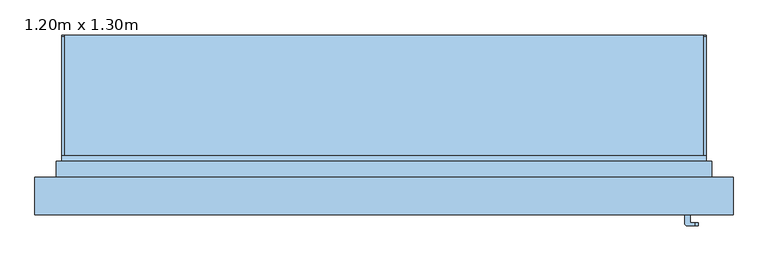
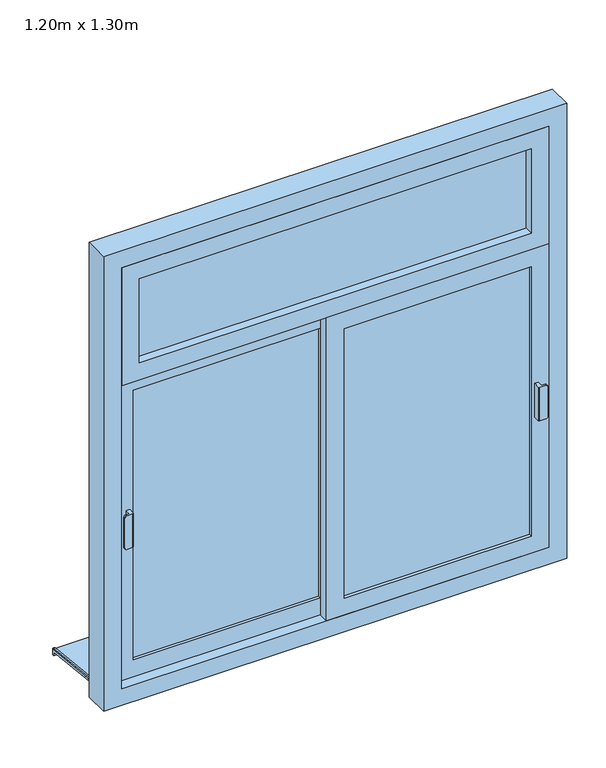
"""IFC4 building model written with IfcOpenShell, lengths in millimetres: window geometry, 2 Vantaux coul. - Imposte haute : 1.20m x 1.30m."""

from ifc_helpers import new_model, si_unit, point, frame, frame_2d, origin, place, context, project, spatial, polyline, circle_curve, trimmed, segment, composite_curve, outline, extrude, faceted_brep, source, transform, mapped, element, save
from ifc_brep_helpers import plane_surface, cylinder_surface, advanced_brep


def window_1_20m_x_1_30m_dc114463(model_context):
    return source(origin(), model_context, "Body", "SolidModel", [
        advanced_brep(
        [(-560.0, -147.5313182, 1250.0), (-562.4686818, -150.0, 1250.0), (-579.0477825, -150.0, 1250.0), (-579.0477825, -145.0, 1250.0), (-570.0, -145.0, 1250.0), (-570.0, -130.0, 1250.0), (-560.0, -130.0, 1250.0), (-560.0, -147.5313182, 1350.0), (-560.0, -130.0, 1350.0), (-570.0, -130.0, 1350.0), (-570.0, -145.0, 1350.0), (-579.0477825, -145.0, 1350.0), (-579.0477825, -150.0, 1350.0), (-562.4686818, -150.0, 1350.0), (-585.0, -145.0, 1255.9522175), (-585.0, -145.0, 1344.0477825), (-585.0, -150.0, 1255.9522175), (-585.0, -150.0, 1344.0477825)],
        [
            (0, 1),
            (1, 2),
            (2, 3),
            (3, 4),
            (4, 5),
            (5, 6),
            (6, 0),
            (7, 8),
            (8, 9),
            (9, 10),
            (10, 11),
            (11, 12),
            (12, 13),
            (13, 7),
            (6, 8),
            (7, 0),
            (5, 9),
            (4, 10),
            (3, 14, circle_curve(frame((-579.0477825, -145.0, 1255.9522175), z_axis=(0.0, 1.0, 0.0), x_axis=(-1.0, 0.0, 0.0)), 5.9522175)),
            (14, 15),
            (15, 11, circle_curve(frame((-579.0477825, -145.0, 1344.0477825), z_axis=(0.0, 1.0, 0.0), x_axis=(-1.0, 0.0, 0.0)), 5.9522175)),
            (14, 16),
            (16, 17),
            (17, 15),
            (12, 17, circle_curve(frame((-579.0477825, -150.0, 1344.0477825), z_axis=(0.0, -1.0, 0.0), x_axis=(-1.0, 0.0, 0.0)), 5.9522175)),
            (16, 2, circle_curve(frame((-579.0477825, -150.0, 1255.9522175), z_axis=(0.0, -1.0, 0.0), x_axis=(-1.0, 0.0, 0.0)), 5.9522175)),
            (1, 13),
        ],
        [
            plane_surface(frame((-560.0, -130.0, 1250.0), z_axis=(0.0, 0.0, -1.0), x_axis=(0.0, 1.0, 0.0))),
            plane_surface(frame((-560.0, -130.0, 1350.0), z_axis=(0.0, 0.0, 1.0), x_axis=(0.0, -1.0, 0.0))),
            plane_surface(frame((-560.0, -147.5313182, 1250.0), z_axis=(1.0, 0.0, 0.0), x_axis=(0.0, 0.0, 1.0))),
            plane_surface(frame((-560.0, -130.0, 1250.0), z_axis=(0.0, 1.0, 0.0), x_axis=(0.0, 0.0, 1.0))),
            plane_surface(frame((-570.0, -130.0, 1250.0), z_axis=(-1.0, 0.0, 0.0), x_axis=(0.0, 0.0, 1.0))),
            plane_surface(frame((-570.0, -145.0, 1250.0), z_axis=(0.0, 1.0, 0.0), x_axis=(0.0, 0.0, 1.0))),
            plane_surface(frame((-585.0, -145.0, 1250.0), z_axis=(-1.0, 0.0, 0.0), x_axis=(0.0, 0.0, 1.0))),
            plane_surface(frame((-585.0, -150.0, 1250.0), z_axis=(0.0, -1.0, 0.0), x_axis=(0.0, 0.0, 1.0))),
            plane_surface(frame((-562.4686818, -150.0, 1250.0), z_axis=(0.7071067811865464, -0.7071067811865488, 0.0), x_axis=(0.0, 0.0, 1.0))),
            cylinder_surface(frame((-579.0477825, -145.0, 1344.0477825), z_axis=(0.0, 1.0, 0.0), x_axis=(-1.0, 0.0, 0.0)), 5.9522175),
            cylinder_surface(frame((-579.0477825, -145.0, 1255.9522175), z_axis=(0.0, 1.0, 0.0), x_axis=(-1.0, 0.0, 0.0)), 5.9522175),
        ],
        [
            (0, [[1, 2, 3, 4, 5, 6, 7]]),
            (1, [[8, 9, 10, 11, 12, 13, 14]]),
            (2, [[15, -8, 16, -7]]),
            (3, [[17, -9, -15, -6]]),
            (4, [[18, -10, -17, -5]]),
            (5, [[-4, 19, 20, 21, -11, -18]]),
            (6, [[22, 23, 24, -20]]),
            (7, [[-13, 25, -23, 26, -2, 27]]),
            (8, [[-16, -14, -27, -1]]),
            (9, [[-21, -24, -25, -12]]),
            (10, [[-26, -22, -19, -3]]),
        ],
    ),
        advanced_brep(
        [(560.0, -177.5313182, 1250.0), (560.0, -160.0, 1250.0), (570.0, -160.0, 1250.0), (570.0, -175.0, 1250.0), (579.0477825, -175.0, 1250.0), (579.0477825, -180.0, 1250.0), (562.4686818, -180.0, 1250.0), (560.0, -177.5313182, 1350.0), (562.4686818, -180.0, 1350.0), (579.0477825, -180.0, 1350.0), (579.0477825, -175.0, 1350.0), (570.0, -175.0, 1350.0), (570.0, -160.0, 1350.0), (560.0, -160.0, 1350.0), (585.0, -175.0, 1344.0477825), (585.0, -175.0, 1255.9522175), (585.0, -180.0, 1344.0477825), (585.0, -180.0, 1255.9522175)],
        [
            (0, 1),
            (1, 2),
            (2, 3),
            (3, 4),
            (4, 5),
            (5, 6),
            (6, 0),
            (7, 8),
            (8, 9),
            (9, 10),
            (10, 11),
            (11, 12),
            (12, 13),
            (13, 7),
            (0, 7),
            (13, 1),
            (12, 2),
            (11, 3),
            (10, 14, circle_curve(frame((579.0477825, -175.0, 1344.0477825), z_axis=(0.0, 1.0, 0.0), x_axis=(1.0, 0.0, 0.0)), 5.9522175)),
            (14, 15),
            (15, 4, circle_curve(frame((579.0477825, -175.0, 1255.9522175), z_axis=(0.0, 1.0, 0.0), x_axis=(1.0, 0.0, 0.0)), 5.9522175)),
            (14, 16),
            (16, 17),
            (17, 15),
            (8, 6),
            (5, 17, circle_curve(frame((579.0477825, -180.0, 1255.9522175), z_axis=(0.0, -1.0, 0.0), x_axis=(1.0, 0.0, 0.0)), 5.9522175)),
            (16, 9, circle_curve(frame((579.0477825, -180.0, 1344.0477825), z_axis=(0.0, -1.0, 0.0), x_axis=(1.0, 0.0, 0.0)), 5.9522175)),
        ],
        [
            plane_surface(frame((560.0, -160.0, 1250.0), z_axis=(0.0, 0.0, -1.0), x_axis=(0.0, 1.0, 0.0))),
            plane_surface(frame((560.0, -160.0, 1350.0), z_axis=(0.0, 0.0, 1.0), x_axis=(0.0, -1.0, 0.0))),
            plane_surface(frame((560.0, -177.5313182, 1250.0), z_axis=(-1.0, 0.0, 0.0), x_axis=(0.0, 0.0, 1.0))),
            plane_surface(frame((560.0, -160.0, 1250.0), z_axis=(0.0, 1.0, 0.0), x_axis=(0.0, 0.0, 1.0))),
            plane_surface(frame((570.0, -160.0, 1250.0), z_axis=(1.0, 0.0, 0.0), x_axis=(0.0, 0.0, 1.0))),
            plane_surface(frame((570.0, -175.0, 1250.0), z_axis=(0.0, 1.0, 0.0), x_axis=(0.0, 0.0, 1.0))),
            plane_surface(frame((585.0, -175.0, 1250.0), z_axis=(1.0, 0.0, 0.0), x_axis=(0.0, 0.0, 1.0))),
            plane_surface(frame((585.0, -180.0, 1250.0), z_axis=(0.0, -1.0, 0.0), x_axis=(0.0, 0.0, 1.0))),
            plane_surface(frame((562.4686818, -180.0, 1250.0), z_axis=(-0.7071067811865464, -0.7071067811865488, 0.0), x_axis=(0.0, 0.0, 1.0))),
            cylinder_surface(frame((579.0477825, -175.0, 1344.0477825), z_axis=(0.0, 1.0, 0.0), x_axis=(1.0, 0.0, 0.0)), 5.9522175),
            cylinder_surface(frame((579.0477825, -175.0, 1255.9522175), z_axis=(0.0, 1.0, 0.0), x_axis=(1.0, 0.0, 0.0)), 5.9522175),
        ],
        [
            (0, [[1, 2, 3, 4, 5, 6, 7]]),
            (1, [[8, 9, 10, 11, 12, 13, 14]]),
            (2, [[-1, 15, -14, 16]]),
            (3, [[-2, -16, -13, 17]]),
            (4, [[-3, -17, -12, 18]]),
            (5, [[-18, -11, 19, 20, 21, -4]]),
            (6, [[-20, 22, 23, 24]]),
            (7, [[25, -6, 26, -23, 27, -9]]),
            (8, [[-7, -25, -8, -15]]),
            (9, [[-10, -27, -22, -19]]),
            (10, [[-5, -21, -24, -26]]),
        ],
    ),
        extrude(outline(polyline([(175.0, 763.4536318), (175.0, 747.8979153), (170.0, 748.4234365), (170.0, 758.7239412), (-80.0, 785.0), (-80.0, 800.0), (-75.0, 800.0), (-75.0, 789.7296906), (175.0, 763.4536318)])), frame((-600.0, 0.0, 0.0), z_axis=(1.0, 0.0, 0.0), x_axis=(0.0, 1.0, 0.0)), (0.0, 0.0, 1.0), 1200.0),
        extrude(outline(composite_curve([segment(polyline([(175.0, 763.4536318), (-75.0, 789.7296906), (-75.0, 794.757232), (171.4181139, 768.8576446)]), True, "CONTINUOUS"), segment(trimmed(circle_curve(frame_2d((171.0, 764.879557)), 4.0), [point((171.4181139, 768.8576446))], [point((175.0, 764.879557))], False, "CARTESIAN"), True, "CONTINUOUS"), segment(polyline([(175.0, 764.879557), (175.0, 763.4536318)]), True, "CONTINUOUS")], self_intersect=False)), frame((-600.0, 0.0, 0.0), z_axis=(1.0, 0.0, 0.0), x_axis=(0.0, 1.0, 0.0)), (0.0, 0.0, 1.0), 5.0),
        extrude(outline(composite_curve([segment(polyline([(175.0, 763.4536318), (-75.0, 789.7296906), (-75.0, 794.757232), (171.4181139, 768.8576446)]), True, "CONTINUOUS"), segment(trimmed(circle_curve(frame_2d((171.0, 764.879557)), 4.0), [point((171.4181139, 768.8576446))], [point((175.0, 764.879557))], False, "CARTESIAN"), True, "CONTINUOUS"), segment(polyline([(175.0, 764.879557), (175.0, 763.4536318)]), True, "CONTINUOUS")], self_intersect=False)), frame((595.0, 0.0, 0.0), z_axis=(1.0, 0.0, 0.0), x_axis=(0.0, 1.0, 0.0)), (0.0, 0.0, 1.0), 5.0),
        extrude(outline(polyline([(-550.0, -109.0), (-25.0, -109.0), (-25.0, -121.0), (-550.0, -121.0), (-550.0, -109.0)])), frame((0.0, 0.0, 900.0), z_axis=(0.0, 0.0, 1.0), x_axis=(1.0, 0.0, 0.0)), (0.0, 0.0, 1.0), 800.0),
        extrude(outline(polyline([(850.0, 25.0), (1750.0, 25.0), (1750.0, -600.0), (850.0, -600.0), (850.0, 25.0)]), holes=[polyline([(900.0, -550.0), (1700.0, -550.0), (1700.0, -25.0), (900.0, -25.0), (900.0, -550.0)])]), frame((0.0, -130.0, 0.0), z_axis=(0.0, 1.0, 0.0), x_axis=(0.0, 0.0, 1.0)), (0.0, 0.0, 1.0), 30.0),
        extrude(outline(polyline([(25.0, -139.0), (550.0, -139.0), (550.0, -151.0), (25.0, -151.0), (25.0, -139.0)])), frame((0.0, 0.0, 900.0), z_axis=(0.0, 0.0, 1.0), x_axis=(1.0, 0.0, 0.0)), (0.0, 0.0, 1.0), 800.0),
        extrude(outline(polyline([(850.0, 600.0), (1750.0, 600.0), (1750.0, -25.0), (850.0, -25.0), (850.0, 600.0)]), holes=[polyline([(900.0, 25.0), (1700.0, 25.0), (1700.0, 550.0), (900.0, 550.0), (900.0, 25.0)])]), frame((0.0, -160.0, 0.0), z_axis=(0.0, 1.0, 0.0), x_axis=(0.0, 0.0, 1.0)), (0.0, 0.0, 1.0), 30.0),
        faceted_brep([(-650.0, -160.0, 800.0), (-650.0, -90.0, 800.0), (-600.0, -90.0, 800.0), (-600.0, -60.0, 800.0), (600.0, -60.0, 800.0), (600.0, -90.0, 800.0), (650.0, -90.0, 800.0), (650.0, -160.0, 800.0), (-650.0, -160.0, 2150.0), (-650.0, -90.0, 2150.0), (650.0, -90.0, 2150.0), (600.0, -90.0, 839.3761425), (-600.0, -90.0, 839.3761425), (-585.0, -90.0, 2085.0), (-585.0, -90.0, 865.0), (585.0, -90.0, 865.0), (585.0, -90.0, 2085.0), (-600.0, -50.0, 828.6581748), (-600.0, -50.0, 795.0), (-600.0, -60.0, 795.0), (600.0, -60.0, 795.0), (600.0, -50.0, 795.0), (600.0, -50.0, 828.6581748), (650.0, -160.0, 2150.0), (600.0, -160.0, 2100.0), (600.0, -160.0, 850.0), (-600.0, -160.0, 850.0), (-600.0, -160.0, 2100.0), (-585.0, -100.0, 2085.0), (-585.0, -100.0, 865.0), (585.0, -100.0, 865.0), (585.0, -100.0, 2085.0), (600.0, -100.0, 2100.0), (-600.0, -100.0, 2100.0), (-600.0, -100.0, 850.0), (600.0, -100.0, 850.0)], [[[0, 1, 2, 3, 4, 5, 6, 7]], [[1, 0, 8, 9]], [[1, 9, 10, 6, 5, 11, 12, 2], [13, 14, 15, 16]], [[12, 17, 18, 19, 3, 2]], [[3, 19, 20, 4]], [[4, 20, 21, 22, 11, 5]], [[6, 10, 23, 7]], [[0, 7, 23, 8], [24, 25, 26, 27]], [[13, 28, 29, 14]], [[29, 30, 15, 14]], [[31, 16, 15, 30]], [[17, 12, 11, 22]], [[32, 33, 34, 35], [28, 31, 30, 29]], [[34, 33, 27, 26]], [[26, 25, 35, 34]], [[24, 32, 35, 25]], [[18, 17, 22, 21]], [[19, 18, 21, 20]], [[13, 16, 31, 28]], [[33, 32, 24, 27]], [[10, 9, 8, 23]]]),
        extrude(outline(polyline([(800.0, -610.0), (800.0, -600.0), (2100.0, -600.0), (2100.0, 600.0), (800.0, 600.0), (800.0, 610.0), (2110.0, 610.0), (2110.0, -610.0), (800.0, -610.0)])), frame((0.0, -90.0, 0.0), z_axis=(0.0, 1.0, 0.0), x_axis=(0.0, 0.0, 1.0)), (0.0, 0.0, 1.0), 30.0),
        extrude(outline(polyline([(1750.0, -600.0), (1750.0, 600.0), (2100.0, 600.0), (2100.0, -600.0), (1750.0, -600.0)]), holes=[polyline([(2050.0, -550.0), (2050.0, 550.0), (1800.0, 550.0), (1800.0, -550.0), (2050.0, -550.0)])]), frame((0.0, -160.0, 0.0), z_axis=(0.0, 1.0, 0.0), x_axis=(0.0, 0.0, 1.0)), (0.0, 0.0, 1.0), 60.0),
        extrude(outline(polyline([(-550.0, -124.0), (550.0, -124.0), (550.0, -136.0), (-550.0, -136.0), (-550.0, -124.0)])), frame((0.0, 0.0, 1800.0), z_axis=(0.0, 0.0, 1.0), x_axis=(1.0, 0.0, 0.0)), (0.0, 0.0, 1.0), 250.0),
    ])


if __name__ == "__main__":
    model = new_model("IFC4")
    model_context = context("Model", 3, world=origin())
    ifc_project = project(units=[si_unit("LENGTHUNIT", "METRE", prefix="MILLI")], contexts=[model_context])
    site = spatial("IfcSite", under=ifc_project)
    building = spatial("IfcBuilding", under=site)
    placement = place(None, origin())
    window_1_20m_x_1_30m_shape = window_1_20m_x_1_30m_dc114463(model_context)
    element("IfcWindow", 1, ObjectType="2 Vantaux coul. - Imposte haute : 1.20m x 1.30m", at=placement, inside=building, context=model_context, shape_type="MappedRepresentation", body=[
        mapped(window_1_20m_x_1_30m_shape, transform((0.0, 0.0, 0.0), x_axis=(1.0, 0.0, 0.0), y_axis=(0.0, 1.0, 0.0), z_axis=(0.0, 0.0, 1.0))),
    ])
    save(model, "model.ifc")
